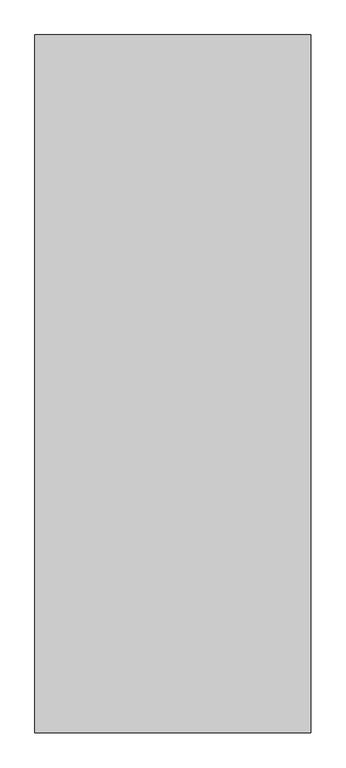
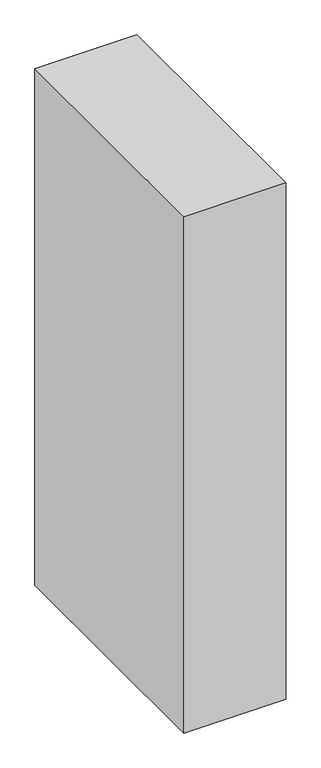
"""IFC4 building model written with IfcOpenShell, lengths in millimetres: proxy geometry."""

from ifc_helpers import new_model, si_unit, frame, origin, place, context, project, spatial, polyline, outline, extrude, source, transform, mapped, element, save


def generic_models_aa2ff9f0(model_context):
    return source(origin(), model_context, "Body", "SweptSolid", [
        extrude(outline(polyline([(-118026.5057462, -42257.5100393), (-118026.5057462, -43807.5100393), (-118639.5057462, -43807.5100393), (-118639.5057462, -42257.5100393), (-118026.5057462, -42257.5100393)])), frame((0.0, 0.0, -150.0), z_axis=(0.0, 0.0, 1.0), x_axis=(1.0, 0.0, 0.0)), (0.0, 0.0, 1.0), 3280.0),
    ])


if __name__ == "__main__":
    model = new_model("IFC4")
    model_context = context("Model", 3, world=origin())
    ifc_project = project(units=[si_unit("LENGTHUNIT", "METRE", prefix="MILLI")], contexts=[model_context])
    site = spatial("IfcSite", under=ifc_project)
    building = spatial("IfcBuilding", under=site)
    placement = place(None, origin())
    generic_models_shape = generic_models_aa2ff9f0(model_context)
    element("IfcBuildingElementProxy", 1, Name="Generic Models", at=placement, inside=building, context=model_context, shape_type="MappedRepresentation", body=[
        mapped(generic_models_shape, transform((0.0, 0.0, 0.0), x_axis=(1.0, 0.0, 0.0), y_axis=(0.0, 1.0, 0.0), z_axis=(0.0, 0.0, 1.0))),
    ])
    save(model, "model.ifc")
